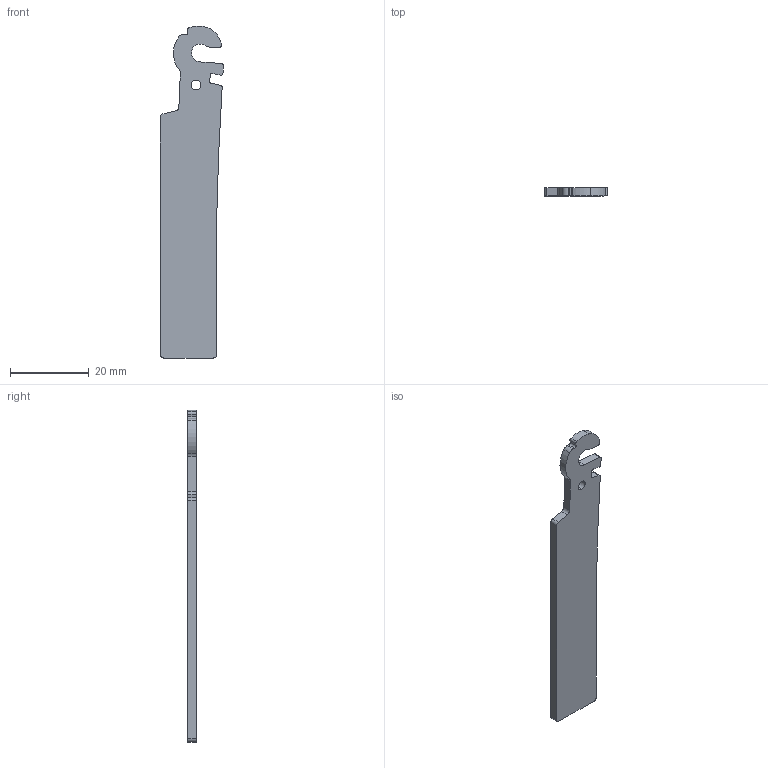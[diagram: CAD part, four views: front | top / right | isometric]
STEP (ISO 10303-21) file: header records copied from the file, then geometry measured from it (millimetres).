
FILE_DESCRIPTION((''),'2;1');
FILE_NAME('R2301_MODEL_2_P','2024-02-28T10:45:55',('Lintion'),(''),'CREO PARAMETRIC BY PTC INC, 2019352','CREO PARAMETRIC BY PTC INC, 2019352','');
FILE_SCHEMA(('CONFIG_CONTROL_DESIGN','SHAPE_APPEARANCE_LAYERS_GROUPS'));
Length unit declared in the file: millimetre
Products named in the file (1): R2301_MODEL_2_P
Bounding box: 16.03 x 2.1 x 84.44 mm (x, y, z)
Volume: 2292.9 mm3; surface area: 2648.9 mm2
Topology: 1 solids, 1 shells, 37 faces, 105 edges, 70 vertices
Faces by surface type: cylinder 24, plane 13
Entity records: 1379 total; most frequent: DIRECTION 227, CARTESIAN_POINT 212, ORIENTED_EDGE 210, EDGE_CURVE 105, COLOUR_RGB 104, AXIS2_PLACEMENT_3D 85, VERTEX_POINT 70, VECTOR 57
